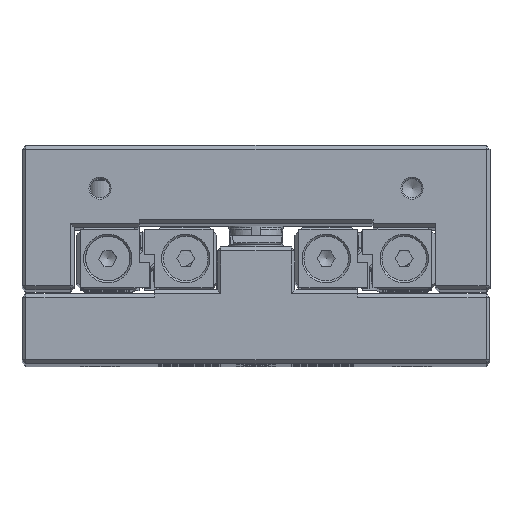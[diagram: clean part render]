
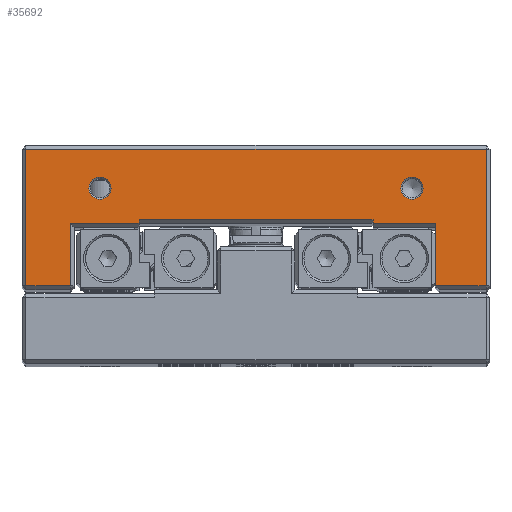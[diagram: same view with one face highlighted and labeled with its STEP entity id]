
A CAD part, top view. The second image highlights one B-rep face of the part: STEP entity #35692.
In plain terms, the highlighted planar face has unit normal (0, 0, 1).
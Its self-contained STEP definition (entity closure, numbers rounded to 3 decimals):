
#1234=FACE_BOUND('',#6187,.T.);
#1235=FACE_BOUND('',#6188,.T.);
#2311=PLANE('',#38511);
#3984=FACE_OUTER_BOUND('',#6186,.T.);
#6186=EDGE_LOOP('',(#28113,#28114,#28115,#28116,#28117,#28118,#28119,#28120,
#28121,#28122,#28123,#28124));
#6187=EDGE_LOOP('',(#28125));
#6188=EDGE_LOOP('',(#28126));
#7835=CIRCLE('',#38336,1.43);
#7838=CIRCLE('',#38341,1.43);
#9600=LINE('',#54855,#12474);
#9604=LINE('',#54864,#12478);
#9914=LINE('',#56396,#12788);
#9925=LINE('',#56420,#12799);
#9929=LINE('',#56426,#12803);
#9932=LINE('',#56431,#12806);
#9938=LINE('',#56441,#12812);
#9946=LINE('',#56455,#12820);
#9949=LINE('',#56459,#12823);
#9973=LINE('',#56511,#12847);
#9980=LINE('',#56524,#12854);
#9989=LINE('',#56542,#12863);
#12474=VECTOR('',#43897,10.);
#12478=VECTOR('',#43903,10.);
#12788=VECTOR('',#45009,10.);
#12799=VECTOR('',#45024,10.);
#12803=VECTOR('',#45030,10.);
#12806=VECTOR('',#45035,10.);
#12812=VECTOR('',#45045,10.);
#12820=VECTOR('',#45059,10.);
#12823=VECTOR('',#45064,10.);
#12847=VECTOR('',#45134,10.);
#12854=VECTOR('',#45145,10.);
#12863=VECTOR('',#45164,10.);
#15626=VERTEX_POINT('',#54852);
#15627=VERTEX_POINT('',#54854);
#15629=VERTEX_POINT('',#54860);
#15631=VERTEX_POINT('',#54863);
#15800=VERTEX_POINT('',#55386);
#15803=VERTEX_POINT('',#55396);
#16018=VERTEX_POINT('',#56393);
#16019=VERTEX_POINT('',#56395);
#16029=VERTEX_POINT('',#56418);
#16030=VERTEX_POINT('',#56419);
#16031=VERTEX_POINT('',#56425);
#16032=VERTEX_POINT('',#56430);
#16034=VERTEX_POINT('',#56440);
#16037=VERTEX_POINT('',#56453);
#19670=EDGE_CURVE('',#15627,#15626,#9600,.T.);
#19674=EDGE_CURVE('',#15631,#15629,#9604,.T.);
#19926=EDGE_CURVE('',#15800,#15800,#7835,.T.);
#19931=EDGE_CURVE('',#15803,#15803,#7838,.T.);
#20245=EDGE_CURVE('',#16019,#16018,#9914,.T.);
#20256=EDGE_CURVE('',#16029,#16030,#9925,.T.);
#20260=EDGE_CURVE('',#16030,#16031,#9929,.T.);
#20263=EDGE_CURVE('',#16031,#16032,#9932,.T.);
#20269=EDGE_CURVE('',#16032,#16034,#9938,.T.);
#20277=EDGE_CURVE('',#16037,#16018,#9946,.T.);
#20280=EDGE_CURVE('',#16034,#16037,#9949,.T.);
#20306=EDGE_CURVE('',#15631,#15626,#9973,.T.);
#20313=EDGE_CURVE('',#15627,#16029,#9980,.T.);
#20322=EDGE_CURVE('',#16019,#15629,#9989,.T.);
#28113=ORIENTED_EDGE('',*,*,#20322,.F.);
#28114=ORIENTED_EDGE('',*,*,#20245,.T.);
#28115=ORIENTED_EDGE('',*,*,#20277,.F.);
#28116=ORIENTED_EDGE('',*,*,#20280,.F.);
#28117=ORIENTED_EDGE('',*,*,#20269,.F.);
#28118=ORIENTED_EDGE('',*,*,#20263,.F.);
#28119=ORIENTED_EDGE('',*,*,#20260,.F.);
#28120=ORIENTED_EDGE('',*,*,#20256,.F.);
#28121=ORIENTED_EDGE('',*,*,#20313,.F.);
#28122=ORIENTED_EDGE('',*,*,#19670,.T.);
#28123=ORIENTED_EDGE('',*,*,#20306,.F.);
#28124=ORIENTED_EDGE('',*,*,#19674,.T.);
#28125=ORIENTED_EDGE('',*,*,#19926,.F.);
#28126=ORIENTED_EDGE('',*,*,#19931,.F.);
#35692=ADVANCED_FACE('',(#3984,#1234,#1235),#2311,.T.);
#38336=AXIS2_PLACEMENT_3D('',#55388,#44520,#44521);
#38341=AXIS2_PLACEMENT_3D('',#55398,#44532,#44533);
#38511=AXIS2_PLACEMENT_3D('',#56541,#45162,#45163);
#43897=DIRECTION('',(0.,1.,0.));
#43903=DIRECTION('',(0.,-1.,0.));
#44520=DIRECTION('center_axis',(0.,0.,
1.));
#44521=DIRECTION('ref_axis',(-1.,0.,0.));
#44532=DIRECTION('center_axis',(0.,0.,
1.));
#44533=DIRECTION('ref_axis',(-1.,0.,0.));
#45009=DIRECTION('',(0.,-1.,0.));
#45024=DIRECTION('',(0.,-1.,0.));
#45030=DIRECTION('',(-1.,0.,0.));
#45035=DIRECTION('',(0.,1.,0.));
#45045=DIRECTION('',(1.,0.,0.));
#45059=DIRECTION('',(-1.,0.,0.));
#45064=DIRECTION('',(0.,-1.,0.));
#45134=DIRECTION('',(-1.,0.,0.));
#45145=DIRECTION('',(-1.,0.,0.));
#45162=DIRECTION('center_axis',(0.,0.,
1.));
#45163=DIRECTION('ref_axis',(1.,0.,0.));
#45164=DIRECTION('',(-1.,0.,0.));
#54852=CARTESIAN_POINT('',(-9.614,-6.007,114.122));
#54854=CARTESIAN_POINT('',(-9.614,-6.507,114.122));
#54855=CARTESIAN_POINT('',(-9.614,-6.507,114.122));
#54860=CARTESIAN_POINT('',(20.386,-6.507,114.122));
#54863=CARTESIAN_POINT('',(20.386,-6.007,114.122));
#54864=CARTESIAN_POINT('',(20.386,-7.007,114.122));
#55386=CARTESIAN_POINT('',(-13.185,-2.007,114.122));
#55388=CARTESIAN_POINT('Origin',(-14.614,-2.007,114.122));
#55396=CARTESIAN_POINT('',(26.815,-2.007,114.122));
#55398=CARTESIAN_POINT('Origin',(25.386,-2.007,114.122));
#56393=CARTESIAN_POINT('',(28.386,-14.507,114.122));
#56395=CARTESIAN_POINT('',(28.386,-6.507,114.122));
#56396=CARTESIAN_POINT('',(28.386,-15.007,114.122));
#56418=CARTESIAN_POINT('',(-18.414,-6.507,114.122));
#56419=CARTESIAN_POINT('',(-18.414,-14.507,114.122));
#56420=CARTESIAN_POINT('',(-18.414,-10.382,114.122));
#56425=CARTESIAN_POINT('',(-24.114,-14.507,114.122));
#56426=CARTESIAN_POINT('',(-9.614,-14.507,114.122));
#56430=CARTESIAN_POINT('',(-24.114,2.993,114.122));
#56431=CARTESIAN_POINT('',(-24.114,-1.132,114.122));
#56440=CARTESIAN_POINT('',(34.886,2.993,114.122));
#56441=CARTESIAN_POINT('',(20.386,2.993,114.122));
#56453=CARTESIAN_POINT('',(34.886,-14.507,114.122));
#56455=CARTESIAN_POINT('',(16.886,-14.507,114.122));
#56459=CARTESIAN_POINT('',(34.886,-10.382,114.122));
#56511=CARTESIAN_POINT('',(-2.114,-6.007,114.122));
#56524=CARTESIAN_POINT('',(-6.264,-6.507,114.122));
#56541=CARTESIAN_POINT('Origin',(5.386,-5.757,114.122));
#56542=CARTESIAN_POINT('',(12.886,-6.507,114.122));
